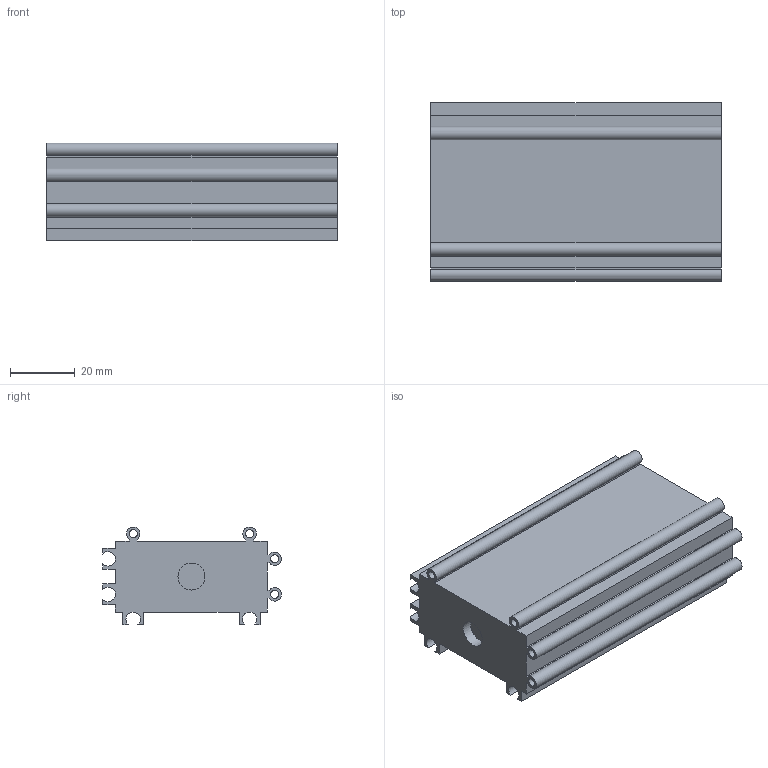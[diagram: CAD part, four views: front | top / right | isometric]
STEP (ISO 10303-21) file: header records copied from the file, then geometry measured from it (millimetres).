
FILE_DESCRIPTION(/* description */ (''),/* implementation_level */ '2;1');
FILE_NAME(/* name */ 'C:/Users/pet3r/Desktop/3D/MOJE/My Drawers/STEP/House 1x1.step',/* time_stamp */ '2018-03-31T21:32:58+02:00',/* author */ (''),/* organization */ (''),/* preprocessor_version */ 'ST-DEVELOPER v16.13',/* originating_system */ 'Autodesk Translation Framework v6.5.0.72',/* authorisation */ '');
FILE_SCHEMA (('AUTOMOTIVE_DESIGN { 1 0 10303 214 3 1 1 }'));
Length unit declared in the file: millimetre
Products named in the file (1): House 1x1
Bounding box: 90 x 55.27 x 30.27 mm (x, y, z)
Volume: 21686.5 mm3; surface area: 37792.9 mm2
Topology: 1 solids, 1 shells, 59 faces, 163 edges, 109 vertices
Faces by surface type: plane 45, cylinder 13, bspline 1
Full cylindrical faces by diameter (mm): 2.5 x4, 8.3 x1
Entity records: 1953 total; most frequent: CARTESIAN_POINT 358, ORIENTED_EDGE 326, DIRECTION 311, EDGE_CURVE 163, LINE 133, VECTOR 133, VERTEX_POINT 109, AXIS2_PLACEMENT_3D 89
